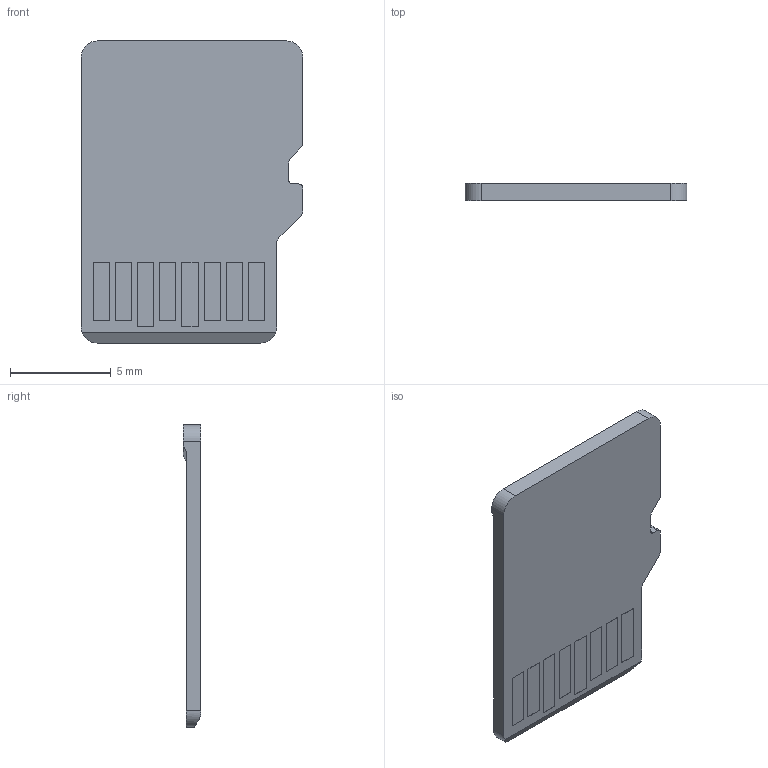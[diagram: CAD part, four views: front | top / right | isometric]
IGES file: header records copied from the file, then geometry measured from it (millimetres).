
Start section:  PTC IGES file: micro_sd_CARD.igs
Global section: file name: micro_sd_CARD.igs; native system: Creo Elements/Pro by Parametric Technology Corporation; preprocessor: 2011180; author: otto_lian; organization: Unknown; date: 20160513.101153; units: millimetre
Bounding box: 11 x 0.85 x 15 mm (x, y, z)
Volume: 110.7 mm3; surface area: 348 mm2
Topology: 1 solids, 1 shells, 64 faces, 162 edges, 108 vertices
Faces by surface type: bspline 54, revolution 10
